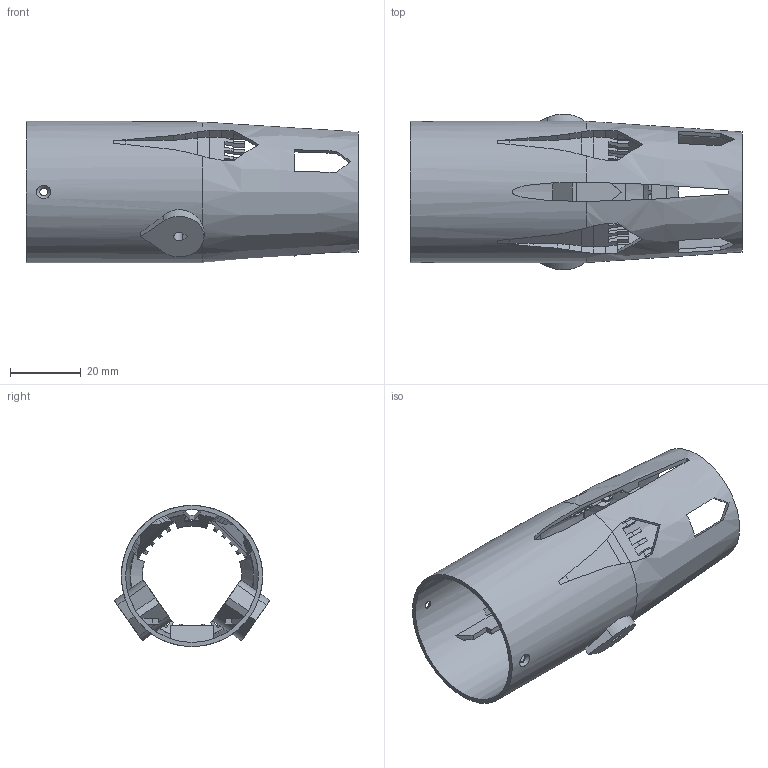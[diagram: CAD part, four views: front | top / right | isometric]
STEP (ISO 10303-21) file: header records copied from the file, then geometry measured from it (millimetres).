
FILE_DESCRIPTION(('SkyG Speed 90B - revision C6B-2 - 2026-10-08','F3-tail-module'),'2;1');
FILE_NAME('F3-tail-module_C6B-2','2026-10-08T01:12:37',('Author'),( 'Open CASCADE'),'Open CASCADE STEP processor 7.9','Open CASCADE 7.9' ,'Unknown');
FILE_SCHEMA(('AUTOMOTIVE_DESIGN { 1 0 10303 214 1 1 1 1 }'));
Length unit declared in the file: millimetre
Products named in the file (1): F3-tail-module C6B-2
Bounding box: 94 x 44.07 x 40 mm (x, y, z)
Volume: 17294.6 mm3; surface area: 24303.5 mm2
Topology: 1 solids, 1 shells, 409 faces, 1234 edges, 821 vertices
Faces by surface type: plane 291, cylinder 66, bspline 42, cone 10
Full cylindrical faces by diameter (mm): 2.2 x2, 37.6 x1, 40 x1
Entity records: 36770 total; most frequent: CARTESIAN_POINT 15130, DIRECTION 3124, ORIENTED_EDGE 2468, PCURVE 2468, DEFINITIONAL_REPRESENTATION 2468, B_SPLINE_CURVE_WITH_KNOTS 1593, LINE 1565, VECTOR 1565
